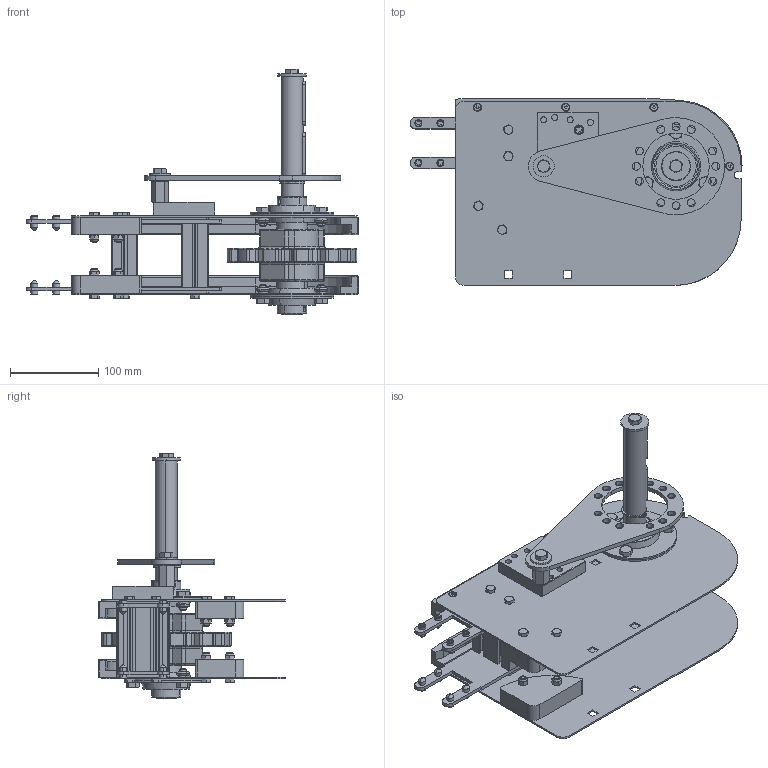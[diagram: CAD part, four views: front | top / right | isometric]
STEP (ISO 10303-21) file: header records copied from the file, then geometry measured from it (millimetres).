
FILE_DESCRIPTION (( 'STEP AP214' ), '1' );
FILE_NAME ('2000.325.163-2.STEP', '2021-06-18T07:24:42', ( 'Localadmin' ), ( 'Microsoft' ), 'SwSTEP 2.0', 'SolidWorks 2018', '' );
FILE_SCHEMA (( 'AUTOMOTIVE_DESIGN' ));
Length unit declared in the file: millimetre
Products named in the file (31): VITI TCEI UNI 5931 INOX_M6x30 UNI 5931 INOX; 084.802.027; 2000.325.163-2; GRANI A PUNTA CONICA UNI 5927_M8x16 UNI 5927; VITI TE UNI 5739 INOX_M6x20 UNI 5739 INOX; VITI TSEI UNI 5933 INOX_0410UNI5933A2; VITI TE UNI 5739 INOX_M6x30 UNI 5739 INOX; 663151_NS880T12R25; SBPF205; 2000.325.105-2; CHIAVETTE_A 8x7x50 UNI 6604-69; 084.312.006; 2000.001.003-3; PU008.012.025N; 2000.001.011; DADI ESAGONALI AUTOBLOCCANTI UNI 7473 INOX_M6 UNI 7473 INOX; 2000.325.102; Circlip DIN 471 - 25 x 1.2_Circlip DIN 471 - 25 x 1.2; 084.808.005-1; VITI TE UNI 5739 INOX_M8x16 UNI 5739 INOX; 2000.001.026; 2000.001.004-3; RONDELLE FASCIA LARGA UNI 6593 INOX_8.4x24 UNI 6593 INOX; 2000.325.104-2; GRANI A PUNTA PIATTA UNI 5923_M8x20 UNI 5923; 2000.325.001_Default<Lavorato>; 2000.001.001; RONDELLE FASCIA LARGA UNI 6593 INOX_8.4x32 UNI 6593 INOX; 2000.325.003; VITI TE UNI 5739 INOX_M8x20 UNI 5739 INOX; 2000.001.006-2
Assembly tree (75 placements, depth 2):
  2000.325.163-2
    084.802.027
    2000.001.006-2  x2
    2000.325.003  x2
    2000.001.001  x2
    2000.325.001_Default<Lavorato>  x2
    2000.325.104-2
    2000.001.004-3
    2000.001.026  x2
    084.808.005-1
    2000.325.102
    2000.001.011
    2000.001.003-3
    CHIAVETTE_A 8x7x50 UNI 6604-69  x3
    SBPF205  x2
    663151_NS880T12R25
    VITI TSEI UNI 5933 INOX_0410UNI5933A2  x8
    GRANI A PUNTA CONICA UNI 5927_M8x16 UNI 5927  x8
    VITI TCEI UNI 5931 INOX_M6x30 UNI 5931 INOX  x2
    VITI TE UNI 5739 INOX_M8x20 UNI 5739 INOX
    RONDELLE FASCIA LARGA UNI 6593 INOX_8.4x32 UNI 6593 INOX
    GRANI A PUNTA PIATTA UNI 5923_M8x20 UNI 5923
    RONDELLE FASCIA LARGA UNI 6593 INOX_8.4x24 UNI 6593 INOX
    VITI TE UNI 5739 INOX_M8x16 UNI 5739 INOX  x7
    Circlip DIN 471 - 25 x 1.2_Circlip DIN 471 - 25 x 1.2
    DADI ESAGONALI AUTOBLOCCANTI UNI 7473 INOX_M6 UNI 7473 INOX  x4
    PU008.012.025N
    084.312.006  x6
    2000.325.105-2
    VITI TE UNI 5739 INOX_M6x30 UNI 5739 INOX  x4
    VITI TE UNI 5739 INOX_M6x20 UNI 5739 INOX  x6
Bounding box: 376.25 x 211.8 x 278.33 mm (x, y, z)
Volume: 1442476.5 mm3; surface area: 732091.6 mm2
Topology: 73 solids, 79 shells, 2187 faces, 5271 edges, 3270 vertices
Faces by surface type: plane 891, cylinder 702, cone 342, torus 188, bspline 64
Entity records: 40120 total; most frequent: CARTESIAN_POINT 7772, DIRECTION 6845, ORIENTED_EDGE 6108, EDGE_CURVE 3056, AXIS2_PLACEMENT_3D 2655, VERTEX_POINT 1906, VECTOR 1535, LINE 1535
